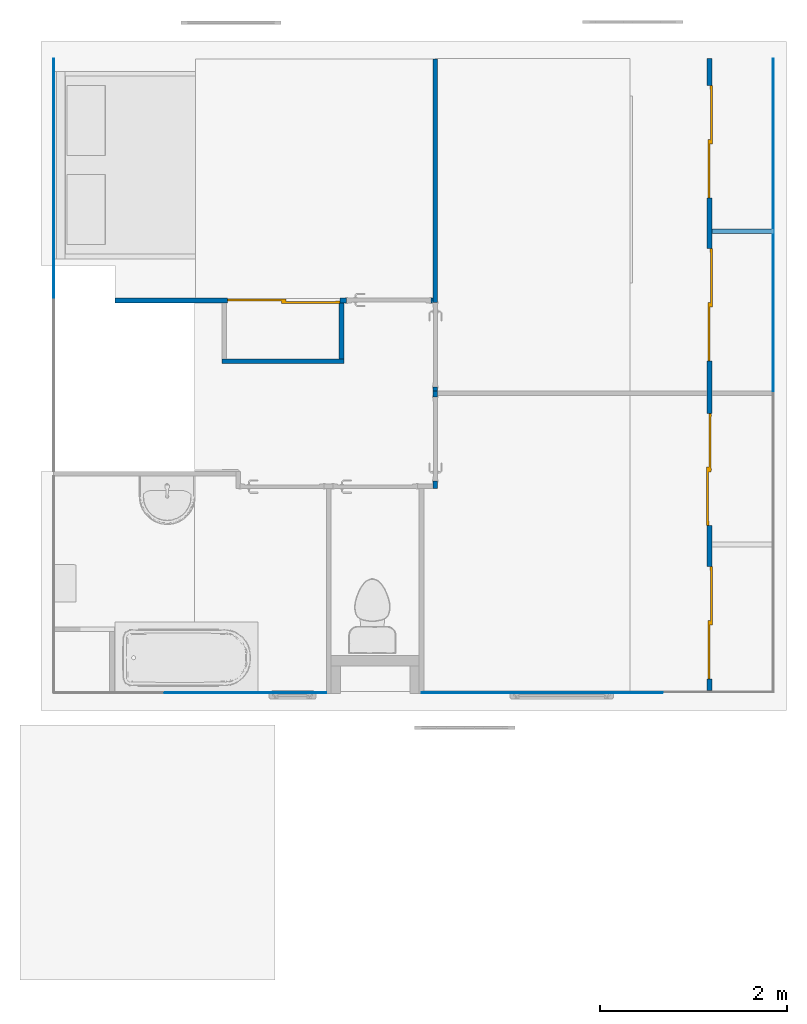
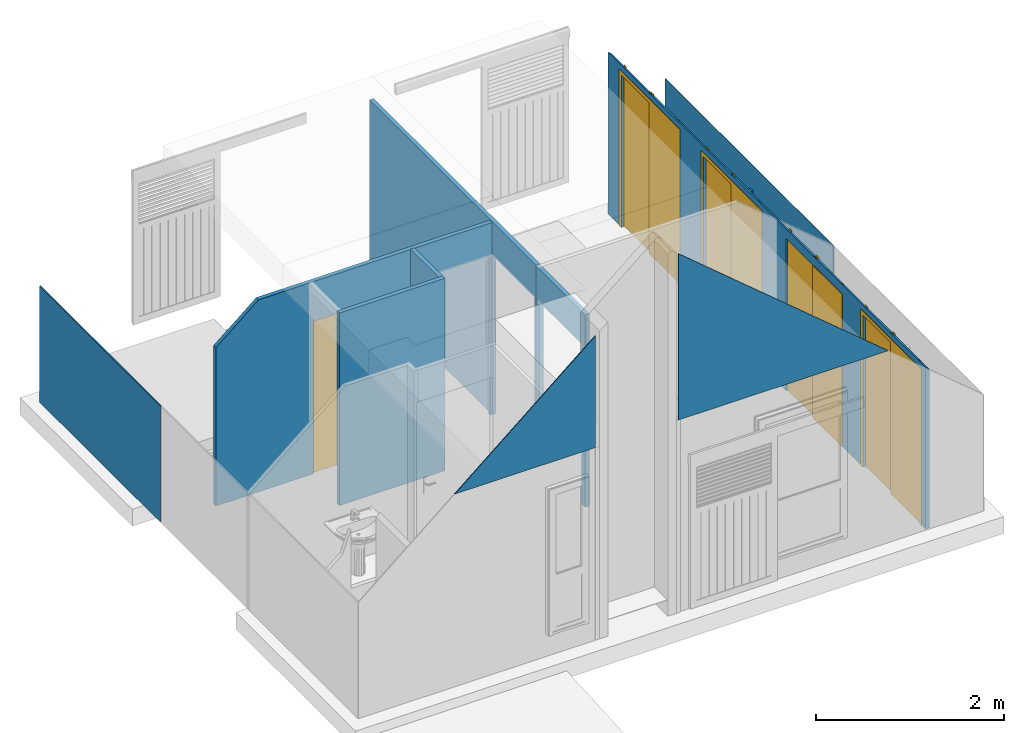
# One storey, part 3 of 11: 11 walls, 5 doors, 10 openings.
"""IFC2X3 building model written with IfcOpenShell, lengths in metres."""

from ifc_helpers import new_model, entity, si_unit, converted_unit, derived_unit, direction, frame, frame_2d, origin, origin_2d_with_axis, place, context, subcontext, project, spatial, polyline, circle_curve, parameter, trimmed, segment, composite_curve, rectangle, outline, extrude, clip, halfspace, bounded_halfspace, faceted_brep, source, transform, mapped, material, material_list, layer, layer_set, layer_usage, type_object, type_shapes, element, fill, save


model = new_model("IFC2X3")

# Units and contexts
model_context = context("Model", 3, precision=1e-05, world=origin(), true_north=direction((6.12303176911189e-17, 1.0)))
body_context = subcontext(model_context, "Body", "Model", "MODEL_VIEW")
ifc_project = project(units=[si_unit("LENGTHUNIT", "METRE"), si_unit("AREAUNIT", "SQUARE_METRE"), si_unit("VOLUMEUNIT", "CUBIC_METRE"), converted_unit("PLANEANGLEUNIT", "DEGREE", entity("IfcRatioMeasure", 0.0174532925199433), si_unit("PLANEANGLEUNIT", "RADIAN"), dimensions=[0, 0, 0, 0, 0, 0, 0]), si_unit("MASSUNIT", "GRAM", prefix="KILO"), derived_unit("MASSDENSITYUNIT", [(si_unit("MASSUNIT", "GRAM", prefix="KILO"), 1), (si_unit("LENGTHUNIT", "METRE"), -3)]), derived_unit("MOMENTOFINERTIAUNIT", [(si_unit("LENGTHUNIT", "METRE"), 4)]), si_unit("TIMEUNIT", "SECOND"), si_unit("FREQUENCYUNIT", "HERTZ"), si_unit("THERMODYNAMICTEMPERATUREUNIT", "DEGREE_CELSIUS"), derived_unit("THERMALTRANSMITTANCEUNIT", [(si_unit("MASSUNIT", "GRAM", prefix="KILO"), 1), (si_unit("THERMODYNAMICTEMPERATUREUNIT", "KELVIN"), -1), (si_unit("TIMEUNIT", "SECOND"), -3)]), derived_unit("VOLUMETRICFLOWRATEUNIT", [(si_unit("LENGTHUNIT", "METRE"), 3), (si_unit("TIMEUNIT", "SECOND"), -1)]), si_unit("ELECTRICCURRENTUNIT", "AMPERE"), si_unit("ELECTRICVOLTAGEUNIT", "VOLT"), si_unit("POWERUNIT", "WATT"), si_unit("FORCEUNIT", "NEWTON", prefix="KILO"), si_unit("ILLUMINANCEUNIT", "LUX"), si_unit("LUMINOUSFLUXUNIT", "LUMEN"), si_unit("LUMINOUSINTENSITYUNIT", "CANDELA"), derived_unit("USERDEFINED", [(si_unit("MASSUNIT", "GRAM", prefix="KILO"), -1), (si_unit("LENGTHUNIT", "METRE"), -2), (si_unit("TIMEUNIT", "SECOND"), 3), (si_unit("LUMINOUSFLUXUNIT", "LUMEN"), 1)]), derived_unit("LINEARVELOCITYUNIT", [(si_unit("LENGTHUNIT", "METRE"), 1), (si_unit("TIMEUNIT", "SECOND"), -1)]), si_unit("PRESSUREUNIT", "PASCAL"), derived_unit("USERDEFINED", [(si_unit("LENGTHUNIT", "METRE"), -2), (si_unit("MASSUNIT", "GRAM", prefix="KILO"), 1), (si_unit("TIMEUNIT", "SECOND"), -2)]), derived_unit("LINEARFORCEUNIT", [(si_unit("MASSUNIT", "GRAM", prefix="KILO"), 1), (si_unit("LENGTHUNIT", "METRE"), 1), (si_unit("TIMEUNIT", "SECOND"), -2), (si_unit("LENGTHUNIT", "METRE"), -1)]), derived_unit("PLANARFORCEUNIT", [(si_unit("MASSUNIT", "GRAM", prefix="KILO"), 1), (si_unit("LENGTHUNIT", "METRE"), 1), (si_unit("TIMEUNIT", "SECOND"), -2), (si_unit("LENGTHUNIT", "METRE"), -2)])], contexts=[model_context])

# Site, building, storey
site_placement = place(None, origin())
site = spatial("IfcSite", under=ifc_project, at=site_placement, Name="Surface", CompositionType="ELEMENT")
building_placement = place(site_placement, origin())
building = spatial("IfcBuilding", under=site, at=building_placement, CompositionType="ELEMENT")
storey_placement = place(building_placement, frame((0.0, 0.0, 2.72)))
storey = spatial("IfcBuildingStorey", under=building, at=storey_placement, Name="02 ETG", CompositionType="ELEMENT", Elevation=2.72)

# Wall
ifc_material_1 = material(Name="Mur par défaut")
ifc_layer_1 = layer(ifc_material_1, 0.05)
ifc_layer_set_1 = layer_set([ifc_layer_1], Name="Mur de base:Int. Plâtre 50 mm")
ifc_layer_usage_1 = layer_usage(ifc_layer_set_1, "AXIS2", "NEGATIVE", 0.025)
wall_type_1 = type_object("IfcWallType", Name="Mur de base:Int. Plâtre 50 mm", PredefinedType="STANDARD", material=ifc_layer_set_1)
wall_1_placement = place(storey_placement, frame((12.7665615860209, 1.59903904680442, 0.0)))
element("IfcWallStandardCase", 1, at=wall_1_placement, inside=storey, type_object=wall_type_1, material=ifc_layer_usage_1, Name="Mur de base:Int. Plâtre 50 mm", ObjectType="Mur de base:Int. Plâtre 50 mm", context=body_context, shape_type="SweptSolid", body=[
    extrude(rectangle(XDim=0.660000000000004, YDim=0.05, at=frame_2d((0.330000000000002, 7.80625564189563e-17), x_axis=(-1.0, 0.0))), origin(), (0.0, 0.0, 1.0), 1.19),
])

# Wall, openings
ifc_layer_usage_2 = layer_usage(ifc_layer_set_1, "AXIS2", "NEGATIVE", 0.025)
wall_2_placement = place(storey_placement, frame((9.81156158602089, -0.105960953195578, 0.0), z_axis=(0.0, 0.0, 1.0), x_axis=(0.0, -1.0, 0.0)))
wall_2 = element("IfcWallStandardCase", 2, at=wall_2_placement, inside=storey, type_object=wall_type_1, material=ifc_layer_usage_2, Name="Mur de base:Int. Plâtre 50 mm", ObjectType="Mur de base:Int. Plâtre 50 mm", context=body_context, shape_type="Clipping", body=[
    clip(extrude(rectangle(XDim=1.04249999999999, YDim=0.0500000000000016, at=frame_2d((0.521249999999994, -3.12250225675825e-16), x_axis=(-1.0, 0.0))), origin(), (0.0, 0.0, 1.0), 2.5), bounded_halfspace(frame((0.0, -0.0249999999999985, 2.5), z_axis=(0.0, 0.0, -1.0), x_axis=(0.0, 1.0, 0.0)), True, frame((0.0, -0.0249999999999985, 2.5)), polyline([(0.0, 0.0), (0.05, 0.0), (0.992499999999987, 0.0), (1.01749999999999, 0.0), (1.01749999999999, 0.0250000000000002), (0.0, 0.0249999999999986), (0.0, 0.0)]))),
])
opening_1_placement = place(wall_2_placement, frame((0.0637499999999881, -0.0250000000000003, 0.0)))
element("IfcOpeningElement", 3, at=opening_1_placement, cuts=wall_2, Name="Int. Simple:Porte pleine parement lisse bois prépeinte:1", ObjectType="Opening", context=body_context, shape_type="SweptSolid", body=[
    extrude(rectangle(XDim=2.075, YDim=0.9, at=frame_2d((1.0375, 0.45), x_axis=(1.0, 0.0))), frame((0.0, 0.0, 0.0), z_axis=(0.0, 1.0, 0.0), x_axis=(0.0, 0.0, 1.0)), (0.0, 0.0, 1.0), 0.05),
])
opening_2_placement = place(wall_2_placement, frame((-0.941050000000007, -0.0249999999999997, 0.0)))
element("IfcOpeningElement", 4, at=opening_2_placement, cuts=wall_2, Name="Int. Simple:Porte pleine parement lisse bois prépeinte:1", ObjectType="Opening", context=body_context, shape_type="SweptSolid", body=[
    extrude(rectangle(XDim=2.075, YDim=0.9, at=frame_2d((1.0375, 0.45), x_axis=(1.0, 0.0))), frame((0.0, 0.0, 0.0), z_axis=(0.0, 1.0, 0.0), x_axis=(0.0, 0.0, 1.0)), (0.0, 0.0, 1.0), 0.05),
])

# Wall, openings, door
ifc_layer_2 = layer(ifc_material_1, 0.05)
ifc_layer_set_2 = layer_set([ifc_layer_2], Name="Mur de base:cloison séche - B.A10")
ifc_layer_usage_3 = layer_usage(ifc_layer_set_2, "AXIS2", "NEGATIVE", 0.025)
wall_type_2 = type_object("IfcWallType", Name="Mur de base:cloison séche - B.A10", PredefinedType="STANDARD", material=ifc_layer_set_2)
wall_3_placement = place(storey_placement, frame((6.39656158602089, 0.859039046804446, 0.0)))
wall_3 = element("IfcWallStandardCase", 5, at=wall_3_placement, inside=storey, type_object=wall_type_2, material=ifc_layer_usage_3, Name="Mur de base:cloison séche - B.A10", ObjectType="Mur de base:cloison séche - B.A10", context=body_context, shape_type="Clipping", body=[
    clip(clip(extrude(rectangle(XDim=3.38999999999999, YDim=0.05, at=frame_2d((1.695, 3.81639164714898e-17), x_axis=(-1.0, 0.0))), origin(), (0.0, 0.0, 1.0), 2.49499999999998), bounded_halfspace(frame((3.38999999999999, 0.0250000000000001, 2.49499999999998), z_axis=(0.0, 0.0, -1.0), x_axis=(1.0, 0.0, 0.0)), True, frame((3.38999999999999, 0.0250000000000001, 2.49499999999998)), polyline([(0.0, 0.0), (-2.53499999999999, 0.0), (-2.53499999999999, -0.0249999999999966), (0.0, -0.0249999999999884), (0.0, 0.0)]))), halfspace(frame((0.0, -0.025, 2.05536265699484), z_axis=(-0.642787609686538, 0.0, 0.766044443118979), x_axis=(0.0, 1.0, 0.0)), False)),
])
opening_3_placement = place(wall_3_placement, frame((2.47, -0.0249999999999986, 0.0)))
element("IfcOpeningElement", 6, at=opening_3_placement, cuts=wall_3, Name="Int. Simple:PP (0.83m x 2.04m):1", ObjectType="Opening", context=body_context, shape_type="SweptSolid", body=[
    extrude(rectangle(XDim=2.075, YDim=0.9, at=frame_2d((1.0375, 0.45), x_axis=(1.0, 0.0))), frame((0.0, 0.0, 0.0), z_axis=(0.0, 1.0, 0.0), x_axis=(0.0, 0.0, 1.0)), (0.0, 0.0, 1.0), 0.05),
])
opening_4_placement = place(wall_3_placement, frame((1.2, -0.0249999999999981, 0.0)))
opening_4 = element("IfcOpeningElement", 7, at=opening_4_placement, cuts=wall_3, Name="Placard coulissante - 2 panneaux:Placard coulissante - 2 panneaux:1", ObjectType="Opening", context=body_context, shape_type="SweptSolid", body=[
    extrude(rectangle(XDim=1.97999999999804, YDim=1.2, at=frame_2d((0.989999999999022, 0.6), x_axis=(1.0, 0.0))), frame((0.0, 0.0, 0.0), z_axis=(0.0, 1.0, 0.0), x_axis=(0.0, 0.0, 1.0)), (0.0, 0.0, 1.0), 0.05),
])
ifc_material_2 = material(Name="Placard - Profil")
ifc_material_3 = material(Name="Placard - Encadrement")
ifc_material_4 = material(Name="Placard - Porte")
ifc_material_list_1 = material_list([ifc_material_2, ifc_material_3, ifc_material_4])
ifc_material_list_2 = material_list([ifc_material_2, ifc_material_3, ifc_material_4])
door_style = type_object("IfcDoorStyle", Name="Placard coulissante - 2 panneaux:Placard coulissante - 2 panneaux", ConstructionType="NOTDEFINED", OperationType="SLIDING_TO_RIGHT", ParameterTakesPrecedence=False, Sizeable=False, material=ifc_material_list_2)
shared_shape = source(origin(), body_context, "Body", "SweptSolid", [
    extrude(outline(composite_curve([segment(polyline([(-0.0250000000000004, -0.00100000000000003), (0.0249999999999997, -0.00100000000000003)]), True, "CONTINUOUS"), segment(polyline([(0.0249999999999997, -0.00100000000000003), (0.0249999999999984, 0.00100000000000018)]), True, "CONTINUOUS"), segment(trimmed(circle_curve(frame_2d((0.0, -0.212860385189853), x_axis=(-1.0, 0.0)), 0.215316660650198), [parameter(263.332459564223)], [parameter(276.667540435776)], True, "PARAMETER"), True, "CONTINUOUS"), segment(polyline([(-0.0250000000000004, 0.00100000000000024), (-0.0250000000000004, -0.00100000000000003)]), True, "CONTINUOUS")], self_intersect=False)), frame((1.175, 0.00900000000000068, 0.0), z_axis=(0.0, 0.0, 1.0), x_axis=(-1.0, 0.0, 0.0)), (0.0, 0.0, 1.0), 2.1),
    extrude(outline(composite_curve([segment(polyline([(-0.0250000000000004, -0.00100000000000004), (0.0249999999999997, -0.00100000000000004)]), True, "CONTINUOUS"), segment(polyline([(0.0249999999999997, -0.00100000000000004), (0.0249999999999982, 0.00100000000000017)]), True, "CONTINUOUS"), segment(trimmed(circle_curve(frame_2d((0.0, -0.212860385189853), x_axis=(-1.0, 0.0)), 0.215316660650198), [parameter(263.332459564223)], [parameter(276.667540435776)], True, "PARAMETER"), True, "CONTINUOUS"), segment(polyline([(-0.0250000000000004, 0.00100000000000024), (-0.0250000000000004, -0.00100000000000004)]), True, "CONTINUOUS")], self_intersect=False)), frame((0.599999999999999, 0.00900000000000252, 0.0), z_axis=(0.0, 0.0, 1.0), x_axis=(-1.0, 0.0, 0.0)), (0.0, 0.0, 1.0), 2.1),
    extrude(outline(composite_curve([segment(polyline([(-0.0250000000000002, -0.00100000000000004), (0.0249999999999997, -0.00100000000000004)]), True, "CONTINUOUS"), segment(polyline([(0.0249999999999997, -0.00100000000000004), (0.0249999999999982, 0.00100000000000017)]), True, "CONTINUOUS"), segment(trimmed(circle_curve(frame_2d((0.0, -0.212860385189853), x_axis=(-1.0, 0.0)), 0.215316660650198), [parameter(263.332459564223)], [parameter(276.667540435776)], True, "PARAMETER"), True, "CONTINUOUS"), segment(polyline([(-0.0250000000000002, 0.00100000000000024), (-0.0250000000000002, -0.00100000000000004)]), True, "CONTINUOUS")], self_intersect=False)), frame((0.599999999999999, 0.0340000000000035, 0.0), z_axis=(0.0, 0.0, 1.0), x_axis=(-1.0, 0.0, 0.0)), (0.0, 0.0, 1.0), 2.1),
    extrude(outline(composite_curve([segment(polyline([(-0.0250000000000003, -0.00100000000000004), (0.0249999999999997, -0.00100000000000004)]), True, "CONTINUOUS"), segment(polyline([(0.0249999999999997, -0.00100000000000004), (0.0249999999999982, 0.00100000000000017)]), True, "CONTINUOUS"), segment(trimmed(circle_curve(frame_2d((0.0, -0.212860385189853), x_axis=(-1.0, 0.0)), 0.215316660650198), [parameter(263.332459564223)], [parameter(276.667540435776)], True, "PARAMETER"), True, "CONTINUOUS"), segment(polyline([(-0.0250000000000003, 0.00100000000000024), (-0.0250000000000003, -0.00100000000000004)]), True, "CONTINUOUS")], self_intersect=False)), frame((0.0250000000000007, 0.0340000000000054, 0.0), z_axis=(0.0, 0.0, 1.0), x_axis=(-1.0, 0.0, 0.0)), (0.0, 0.0, 1.0), 2.1),
    extrude(outline(polyline([(-1.00149999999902, -0.647999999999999), (1.02649999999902, -0.647999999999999), (1.02649999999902, 0.647999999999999), (-1.00149999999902, 0.647999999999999), (-1.00149999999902, 0.597999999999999), (0.976499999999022, 0.597999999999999), (0.976499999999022, -0.597999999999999), (-1.00149999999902, -0.597999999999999), (-1.00149999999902, -0.647999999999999)])), frame((0.6, -0.003, 1.00149999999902), z_axis=(0.0, 1.0, 0.0), x_axis=(0.0, 0.0, 1.0)), (0.0, 0.0, 1.0), 0.003),
    extrude(rectangle(XDim=0.020000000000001, YDim=0.625000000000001, at=origin_2d_with_axis()), frame((0.8875, 0.0200000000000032, 0.0), z_axis=(0.0, 0.0, 1.0), x_axis=(0.0, 1.0, 0.0)), (0.0, 0.0, 1.0), 1.98),
    extrude(rectangle(XDim=0.02, YDim=0.624999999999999, at=origin_2d_with_axis()), frame((0.3125, 0.0450000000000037, 0.0), z_axis=(0.0, 0.0, 1.0), x_axis=(0.0, 1.0, 0.0)), (0.0, 0.0, 1.0), 1.98),
])
type_shapes(door_style, [shared_shape])
door_1_placement = place(opening_4_placement, frame((1.2, 0.0499999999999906, 0.0), z_axis=(0.0, 0.0, 1.0), x_axis=(-1.0, 0.0, 0.0)))
door_1 = element("IfcDoor", 8, at=door_1_placement, inside=storey, type_object=door_style, material=ifc_material_list_1, Name="Placard coulissante - 2 panneaux:Placard coulissante - 2 panneaux", ObjectType="Placard coulissante - 2 panneaux:Placard coulissante - 2 panneaux", OverallHeight=1.97999999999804, OverallWidth=1.2, context=body_context, shape_type="MappedRepresentation", body=[
    mapped(shared_shape, transform((0.0, 0.0, 0.0), scale=1.0)),
])
fill(opening_4, door_1)

# Wall
ifc_layer_usage_4 = layer_usage(ifc_layer_set_2, "AXIS2", "NEGATIVE", 0.025)
wall_4_placement = place(storey_placement, frame((7.53656158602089, 0.209039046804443, 0.0)))
element("IfcWallStandardCase", 9, at=wall_4_placement, inside=storey, type_object=wall_type_2, material=ifc_layer_usage_4, Name="Mur de base:cloison séche - B.A10", ObjectType="Mur de base:cloison séche - B.A10", context=body_context, shape_type="Clipping", body=[
    clip(extrude(rectangle(XDim=1.3, YDim=0.05, at=frame_2d((0.649999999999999, 0.0), x_axis=(-1.0, 0.0))), origin(), (0.0, 0.0, 1.0), 2.5), bounded_halfspace(frame((0.0, -0.025, 2.5), z_axis=(0.0, 0.0, -1.0), x_axis=(1.0, 0.0, 0.0)), True, frame((0.0, -0.025, 2.5)), polyline([(0.0, 0.0), (1.3, 0.0), (1.3, 0.05), (1.25, 0.05), (0.0499999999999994, 0.05), (0.0, 0.05), (0.0, 0.0)]))),
])

# Wall, opening
ifc_layer_usage_5 = layer_usage(ifc_layer_set_2, "AXIS2", "NEGATIVE", 0.025)
wall_5_placement = place(storey_placement, frame((8.81156158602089, 0.234039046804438, 0.0), z_axis=(0.0, 0.0, 1.0), x_axis=(0.0, 1.0, 0.0)))
wall_5 = element("IfcWallStandardCase", 10, at=wall_5_placement, inside=storey, type_object=wall_type_2, material=ifc_layer_usage_5, Name="Mur de base:cloison séche - B.A10", ObjectType="Mur de base:cloison séche - B.A10", context=body_context, shape_type="Clipping", body=[
    clip(extrude(rectangle(XDim=0.6, YDim=0.0499999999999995, at=frame_2d((0.3, -4.85722573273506e-17), x_axis=(-1.0, 0.0))), origin(), (0.0, 0.0, 1.0), 2.5), bounded_halfspace(frame((0.0, -0.0249999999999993, 2.5), z_axis=(0.0, 0.0, -1.0), x_axis=(0.0, -1.0, 0.0)), True, frame((0.0, -0.0249999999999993, 2.5)), polyline([(0.0, 0.0), (0.6, 0.0), (0.6, 0.0499999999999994), (0.0, 0.0499999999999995), (0.0, 0.0)]))),
])
opening_5_placement = place(wall_5_placement, origin())
element("IfcOpeningElement", 11, at=opening_5_placement, cuts=wall_5, Name="Mur de base:cloison séche - B.A10", ObjectType="Opening", context=body_context, shape_type="SweptSolid", body=[
    extrude(rectangle(XDim=1.97999999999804, YDim=0.05, at=frame_2d((0.0, 0.0), x_axis=(0.0, 1.0))), frame((0.625, 0.0150000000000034, 0.989999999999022), z_axis=(0.0, 1.0, 0.0), x_axis=(-1.0, 0.0, 0.0)), (0.0, 0.0, 1.0), 1.2),
])

# Wall, openings, doors
ifc_layer_usage_6 = layer_usage(ifc_layer_set_2, "AXIS2", "NEGATIVE", 0.025)
wall_6_placement = place(storey_placement, frame((12.7415615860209, -3.30596095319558, 0.0), z_axis=(0.0, 0.0, 1.0), x_axis=(0.0, 1.0, 0.0)))
wall_6 = element("IfcWallStandardCase", 12, at=wall_6_placement, inside=storey, type_object=wall_type_2, material=ifc_layer_usage_6, Name="Mur de base:cloison séche - B.A10", ObjectType="Mur de base:cloison séche - B.A10", context=body_context, shape_type="Clipping", body=[
    clip(extrude(rectangle(XDim=6.749, YDim=0.0500000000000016, at=frame_2d((3.3745, 0.0), x_axis=(-1.0, 0.0))), origin(), (0.0, 0.0, 1.0), 2.10231763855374), bounded_halfspace(frame((0.0, -0.0249999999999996, 2.06036265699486), z_axis=(0.0, -0.642787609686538, 0.766044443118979), x_axis=(1.0, 0.0, 0.0)), False, frame((0.0, -0.0249999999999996, 2.06036265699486)), polyline([(0.0, 0.0), (3.14999999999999, 0.0), (3.19999999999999, 0.0), (6.749, 0.0), (6.749, 0.0499999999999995), (3.19999999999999, 0.0500000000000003), (3.14999999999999, 0.0500000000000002), (0.0, 0.0499999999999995), (0.0, 0.0)]))),
])
opening_6_placement = place(wall_6_placement, frame((2.96, 0.0250000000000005, 0.0)))
opening_6 = element("IfcOpeningElement", 13, at=opening_6_placement, cuts=wall_6, Name="Placard coulissante - 2 panneaux:Placard coulissante - 2 panneaux:1", ObjectType="Opening", context=body_context, shape_type="SweptSolid", body=[
    extrude(rectangle(XDim=1.97999999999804, YDim=1.2, at=frame_2d((0.989999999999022, 0.6), x_axis=(1.0, 0.0))), frame((0.0, 0.0, 0.0), z_axis=(0.0, -1.0, 0.0), x_axis=(0.0, 0.0, 1.0)), (0.0, 0.0, 1.0), 0.05),
])
opening_7_placement = place(wall_6_placement, frame((0.123999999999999, -0.0250000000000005, 0.0)))
opening_7 = element("IfcOpeningElement", 14, at=opening_7_placement, cuts=wall_6, Name="Placard coulissante - 2 panneaux:Placard coulissante - 2 panneaux:1", ObjectType="Opening", context=body_context, shape_type="SweptSolid", body=[
    extrude(rectangle(XDim=1.97999999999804, YDim=1.2, at=frame_2d((0.989999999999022, 0.6), x_axis=(1.0, 0.0))), frame((0.0, 0.0, 0.0), z_axis=(0.0, 1.0, 0.0), x_axis=(0.0, 0.0, 1.0)), (0.0, 0.0, 1.0), 0.05),
])
opening_8_placement = place(wall_6_placement, frame((3.52, -0.0250000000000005, 0.0)))
opening_8 = element("IfcOpeningElement", 15, at=opening_8_placement, cuts=wall_6, Name="Placard coulissante - 2 panneaux:Placard coulissante - 2 panneaux:1", ObjectType="Opening", context=body_context, shape_type="SweptSolid", body=[
    extrude(rectangle(XDim=1.97999999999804, YDim=1.2, at=frame_2d((0.989999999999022, 0.6), x_axis=(1.0, 0.0))), frame((0.0, 0.0, 0.0), z_axis=(0.0, 1.0, 0.0), x_axis=(0.0, 0.0, 1.0)), (0.0, 0.0, 1.0), 0.05),
])
opening_9_placement = place(wall_6_placement, frame((5.26, -0.0250000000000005, 0.0)))
opening_9 = element("IfcOpeningElement", 16, at=opening_9_placement, cuts=wall_6, Name="Placard coulissante - 2 panneaux:Placard coulissante - 2 panneaux:1", ObjectType="Opening", context=body_context, shape_type="SweptSolid", body=[
    extrude(rectangle(XDim=1.97999999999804, YDim=1.2, at=frame_2d((0.989999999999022, 0.6), x_axis=(1.0, 0.0))), frame((0.0, 0.0, 0.0), z_axis=(0.0, 1.0, 0.0), x_axis=(0.0, 0.0, 1.0)), (0.0, 0.0, 1.0), 0.05),
])
ifc_material_list_3 = material_list([ifc_material_2, ifc_material_3, ifc_material_4])
door_2_placement = place(opening_9_placement, frame((1.2, 0.0499999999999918, 0.0), z_axis=(0.0, 0.0, 1.0), x_axis=(-1.0, 0.0, 0.0)))
door_2 = element("IfcDoor", 17, at=door_2_placement, inside=storey, type_object=door_style, material=ifc_material_list_3, Name="Placard coulissante - 2 panneaux:Placard coulissante - 2 panneaux", ObjectType="Placard coulissante - 2 panneaux:Placard coulissante - 2 panneaux", OverallHeight=1.97999999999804, OverallWidth=1.2, context=body_context, shape_type="MappedRepresentation", body=[
    mapped(shared_shape, transform((0.0, 0.0, 0.0), scale=1.0)),
])
fill(opening_9, door_2)
ifc_material_list_4 = material_list([ifc_material_2, ifc_material_3, ifc_material_4])
door_3_placement = place(opening_8_placement, frame((1.2, 0.0499999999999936, 0.0), z_axis=(0.0, 0.0, 1.0), x_axis=(-1.0, 0.0, 0.0)))
door_3 = element("IfcDoor", 18, at=door_3_placement, inside=storey, type_object=door_style, material=ifc_material_list_4, Name="Placard coulissante - 2 panneaux:Placard coulissante - 2 panneaux", ObjectType="Placard coulissante - 2 panneaux:Placard coulissante - 2 panneaux", OverallHeight=1.97999999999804, OverallWidth=1.2, context=body_context, shape_type="MappedRepresentation", body=[
    mapped(shared_shape, transform((0.0, 0.0, 0.0), scale=1.0)),
])
fill(opening_8, door_3)
ifc_material_list_5 = material_list([ifc_material_2, ifc_material_3, ifc_material_4])
door_4_placement = place(opening_6_placement, frame((-1.2, -0.050000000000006, 0.0)))
door_4 = element("IfcDoor", 19, at=door_4_placement, inside=storey, type_object=door_style, material=ifc_material_list_5, Name="Placard coulissante - 2 panneaux:Placard coulissante - 2 panneaux", ObjectType="Placard coulissante - 2 panneaux:Placard coulissante - 2 panneaux", OverallHeight=1.97999999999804, OverallWidth=1.2, context=body_context, shape_type="MappedRepresentation", body=[
    mapped(shared_shape, transform((0.0, 0.0, 0.0), scale=1.0)),
])
fill(opening_6, door_4)
ifc_material_list_6 = material_list([ifc_material_2, ifc_material_3, ifc_material_4])
door_5_placement = place(opening_7_placement, frame((1.2, 0.0499999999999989, 0.0), z_axis=(0.0, 0.0, 1.0), x_axis=(-1.0, 0.0, 0.0)))
door_5 = element("IfcDoor", 20, at=door_5_placement, inside=storey, type_object=door_style, material=ifc_material_list_6, Name="Placard coulissante - 2 panneaux:Placard coulissante - 2 panneaux", ObjectType="Placard coulissante - 2 panneaux:Placard coulissante - 2 panneaux", OverallHeight=1.97999999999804, OverallWidth=1.2, context=body_context, shape_type="MappedRepresentation", body=[
    mapped(shared_shape, transform((0.0, 0.0, 0.0), scale=1.0)),
])
fill(opening_7, door_5)

# Wall, opening
ifc_layer_usage_7 = layer_usage(ifc_layer_set_2, "AXIS2", "NEGATIVE", 0.025)
wall_7_placement = place(storey_placement, frame((9.81156158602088, -0.105960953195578, 0.0), z_axis=(0.0, 0.0, 1.0), x_axis=(0.0, 1.0, 0.0)))
wall_7 = element("IfcWallStandardCase", 21, at=wall_7_placement, inside=storey, type_object=wall_type_2, material=ifc_layer_usage_7, Name="Mur de base:cloison séche - B.A10", ObjectType="Mur de base:cloison séche - B.A10", context=body_context, shape_type="SweptSolid", body=[
    extrude(rectangle(XDim=3.54500000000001, YDim=0.0500000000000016, at=frame_2d((1.77250000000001, 5.20417042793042e-18), x_axis=(-1.0, 0.0))), origin(), (0.0, 0.0, 1.0), 2.51),
])
opening_10_placement = place(wall_7_placement, origin())
element("IfcOpeningElement", 22, at=opening_10_placement, cuts=wall_7, Name="Mur de base:cloison séche - B.A10", ObjectType="Opening", context=body_context, shape_type="SweptSolid", body=[
    extrude(rectangle(XDim=2.075, YDim=0.9, at=frame_2d((-3.33066907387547e-16, 0.0), x_axis=(1.0, 0.0))), frame((0.491050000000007, -1.54900000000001, 1.0375), z_axis=(0.0, 1.0, 0.0), x_axis=(0.0, 0.0, 1.0)), (0.0, 0.0, 1.0), 3.048),
])

# Walls
ifc_material_5 = material(Name="Placoplâtre de gypse")
ifc_layer_3 = layer(ifc_material_5, 0.01)
ifc_layer_set_3 = layer_set([ifc_layer_3], Name="Mur de base:Int. Plâtre 10 mm")
ifc_layer_usage_8 = layer_usage(ifc_layer_set_3, "AXIS2", "POSITIVE", -0.005)
wall_type_3 = type_object("IfcWallType", Name="Mur de base:Int. Plâtre 10 mm", PredefinedType="STANDARD", material=ifc_layer_set_3)
wall_8_placement = place(storey_placement, frame((13.4215615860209, 3.43903904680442, 0.0), z_axis=(0.0, 0.0, 1.0), x_axis=(0.0, -1.0, 0.0)))
element("IfcWallStandardCase", 23, at=wall_8_placement, inside=storey, type_object=wall_type_3, material=ifc_layer_usage_8, Name="Mur de base:Int. Plâtre 10 mm", ObjectType="Mur de base:Int. Plâtre 10 mm", context=body_context, shape_type="Clipping", body=[
    clip(extrude(rectangle(XDim=3.57, YDim=0.0100000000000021, at=frame_2d((1.785, 1.51788304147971e-17), x_axis=(-1.0, 0.0))), origin(), (0.0, 0.0, 1.0), 1.51494789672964), bounded_halfspace(frame((0.0, -0.00499999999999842, 1.51494789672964), z_axis=(0.0, 0.642787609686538, 0.766044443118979), x_axis=(-1.0, 0.0, 0.0)), False, frame((0.0, -0.00499999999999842, 1.51494789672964)), polyline([(0.0, 0.0), (3.54500000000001, 0.0), (3.57, 0.0), (3.57, 0.00999999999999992), (0.0, 0.00999999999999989), (0.0, 0.0)]))),
])
wall_9_placement = place(storey_placement, frame((12.2426222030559, -3.33096095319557, 2.5), z_axis=(0.0, 0.0, 1.0), x_axis=(-1.0, 0.0, 0.0)))
element("IfcWall", 24, at=wall_9_placement, inside=storey, type_object=wall_type_3, Name="Mur de base:Int. Plâtre 10 mm", ObjectType="Mur de base:Int. Plâtre 10 mm", context=body_context, shape_type="Brep", body=[
    faceted_brep([(0.0, -0.00499999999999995, 0.0), (0.00106061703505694, -0.00499999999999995, 0.0), (0.0510606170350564, -0.00499999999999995, 0.0), (0.351060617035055, -0.00499999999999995, 0.0), (2.57606061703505, -0.00499999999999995, 0.0), (2.57606061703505, -0.00499999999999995, 2.16157151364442), (0.351060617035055, -0.00499999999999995, 0.294574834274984), (0.0510606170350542, -0.00499999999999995, 0.0428449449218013), (0.00106061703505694, -0.00499999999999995, 0.000889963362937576), (2.57606061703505, 0.00499999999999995, 2.16157151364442), (2.57606061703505, 0.00499999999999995, 0.0), (0.0, 0.00499999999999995, 0.0)], [[[0, 1, 2, 3, 4, 5, 6, 7, 8]], [[9, 10, 11]], [[10, 4, 3, 2, 1, 0, 11]], [[4, 10, 9, 5]], [[0, 8, 7, 6, 5, 9, 11]]]),
])
wall_10_placement = place(storey_placement, frame((8.65156158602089, -3.33096095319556, 2.5), z_axis=(0.0, 0.0, 1.0), x_axis=(-1.0, 0.0, 0.0)))
element("IfcWall", 25, at=wall_10_placement, inside=storey, type_object=wall_type_3, Name="Mur de base:Int. Plâtre 10 mm", ObjectType="Mur de base:Int. Plâtre 10 mm", context=body_context, shape_type="Brep", body=[
    faceted_brep([(0.0, -0.00499999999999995, 0.0), (1.4, -0.00499999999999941, 0.0), (1.7, -0.00499999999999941, 0.0), (1.73106061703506, -0.00499999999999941, 0.0), (1.7, -0.00499999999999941, 0.0260629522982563), (1.4, -0.00499999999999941, 0.27779284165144), (0.0, -0.00499999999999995, 1.45253232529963), (0.0, 0.00499999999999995, 0.0), (0.0, 0.00499999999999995, 1.45253232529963), (1.73106061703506, 0.00500000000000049, 0.0)], [[[0, 1, 2, 3, 4, 5, 6]], [[7, 8, 9]], [[0, 7, 9, 3, 2, 1]], [[7, 0, 6, 8]], [[6, 5, 4, 3, 9, 8]]]),
])
ifc_layer_usage_9 = layer_usage(ifc_layer_set_3, "AXIS2", "POSITIVE", -0.005)
wall_11_placement = place(storey_placement, frame((5.74156158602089, 0.866539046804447, 0.0), z_axis=(0.0, 0.0, 1.0), x_axis=(0.0, 1.0, 0.0)))
element("IfcWallStandardCase", 26, at=wall_11_placement, inside=storey, type_object=wall_type_3, material=ifc_layer_usage_9, Name="Mur de base:Int. Plâtre 10 mm", ObjectType="Mur de base:Int. Plâtre 10 mm", context=body_context, shape_type="Clipping", body=[
    clip(extrude(rectangle(XDim=2.5725, YDim=0.00999999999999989, at=frame_2d((1.28625, 2.56739074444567e-16), x_axis=(-1.0, 0.0))), origin(), (0.0, 0.0, 1.0), 1.51494789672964), bounded_halfspace(frame((0.0, -0.00499999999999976, 1.51494789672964), z_axis=(0.0, 0.642787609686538, 0.766044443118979), x_axis=(-1.0, 0.0, 0.0)), False, frame((0.0, -0.00499999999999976, 1.51494789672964)), polyline([(0.0, 0.0), (2.5725, 0.0), (2.5725, 0.0100000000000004), (0.0, 0.00999999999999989), (0.0, 0.0)]))),
])

save(model, "model.ifc")
